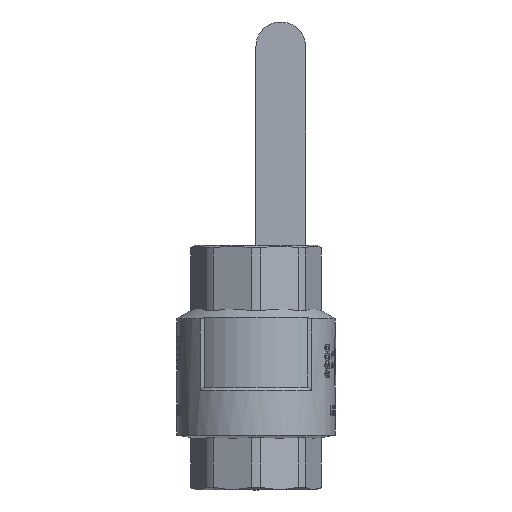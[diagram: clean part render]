
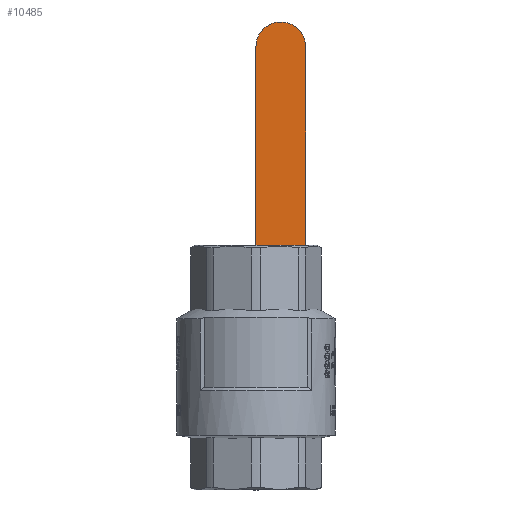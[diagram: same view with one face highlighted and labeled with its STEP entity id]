
A CAD part, front view. The second image highlights one B-rep face of the part: STEP entity #10485.
In plain terms, the highlighted planar face has unit normal (0, -1, 0).
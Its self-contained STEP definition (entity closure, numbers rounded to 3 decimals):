
#376=PLANE('',#11158);
#827=CIRCLE('',#11134,11.);
#838=CIRCLE('',#11150,11.);
#1423=FACE_OUTER_BOUND('',#2062,.T.);
#2062=EDGE_LOOP('',(#9611,#9612,#9613,#9614,#9615,#9616));
#3284=LINE('',#27776,#4018);
#3295=LINE('',#27810,#4029);
#3301=LINE('',#27835,#4035);
#3303=LINE('',#27838,#4037);
#4018=VECTOR('',#13123,10.);
#4029=VECTOR('',#13152,10.);
#4035=VECTOR('',#13180,10.);
#4037=VECTOR('',#13184,10.);
#5045=VERTEX_POINT('',#27758);
#5047=VERTEX_POINT('',#27762);
#5052=VERTEX_POINT('',#27774);
#5065=VERTEX_POINT('',#27807);
#5066=VERTEX_POINT('',#27809);
#5070=VERTEX_POINT('',#27819);
#6585=EDGE_CURVE('',#5045,#5047,#827,.T.);
#6591=EDGE_CURVE('',#5047,#5052,#3284,.T.);
#6608=EDGE_CURVE('',#5066,#5065,#3295,.T.);
#6614=EDGE_CURVE('',#5065,#5070,#838,.T.);
#6621=EDGE_CURVE('',#5052,#5066,#3301,.T.);
#6623=EDGE_CURVE('',#5045,#5070,#3303,.T.);
#9611=ORIENTED_EDGE('',*,*,#6614,.T.);
#9612=ORIENTED_EDGE('',*,*,#6623,.F.);
#9613=ORIENTED_EDGE('',*,*,#6585,.T.);
#9614=ORIENTED_EDGE('',*,*,#6591,.T.);
#9615=ORIENTED_EDGE('',*,*,#6621,.T.);
#9616=ORIENTED_EDGE('',*,*,#6608,.T.);
#10485=ADVANCED_FACE('',(#1423),#376,.T.);
#11134=AXIS2_PLACEMENT_3D('',#27764,#13112,#13113);
#11150=AXIS2_PLACEMENT_3D('',#27822,#13162,#13163);
#11158=AXIS2_PLACEMENT_3D('',#27837,#13182,#13183);
#13112=DIRECTION('center_axis',(0.,-1.,0.));
#13113=DIRECTION('ref_axis',(-1.,0.,0.));
#13123=DIRECTION('',(0.,0.,-1.));
#13152=DIRECTION('',(0.,0.,1.));
#13162=DIRECTION('center_axis',(0.,-1.,0.));
#13163=DIRECTION('ref_axis',(-1.,0.,0.));
#13180=DIRECTION('',(1.,0.,0.));
#13182=DIRECTION('center_axis',(0.,-1.,0.));
#13183=DIRECTION('ref_axis',(0.,0.,-1.));
#13184=DIRECTION('',(1.,0.,0.));
#27758=CARTESIAN_POINT('',(9.974,71.636,153.992));
#27762=CARTESIAN_POINT('',(0.,71.636,143.04));
#27764=CARTESIAN_POINT('Origin',(11.,71.636,143.04));
#27774=CARTESIAN_POINT('',(0.,71.636,49.821));
#27776=CARTESIAN_POINT('',(0.,71.636,148.516));
#27807=CARTESIAN_POINT('',(22.,71.636,143.04));
#27809=CARTESIAN_POINT('',(22.,71.636,49.821));
#27810=CARTESIAN_POINT('',(22.,71.636,85.783));
#27819=CARTESIAN_POINT('',(12.026,71.636,153.992));
#27822=CARTESIAN_POINT('Origin',(11.,71.636,143.04));
#27835=CARTESIAN_POINT('',(0.,71.636,49.821));
#27837=CARTESIAN_POINT('Origin',(0.,71.636,153.992));
#27838=CARTESIAN_POINT('',(0.,71.636,153.992));
